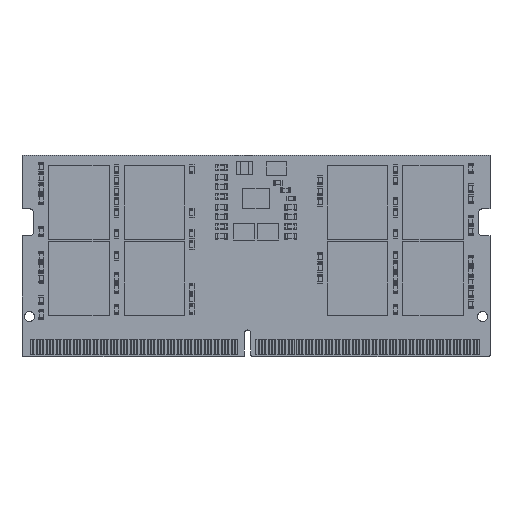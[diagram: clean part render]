
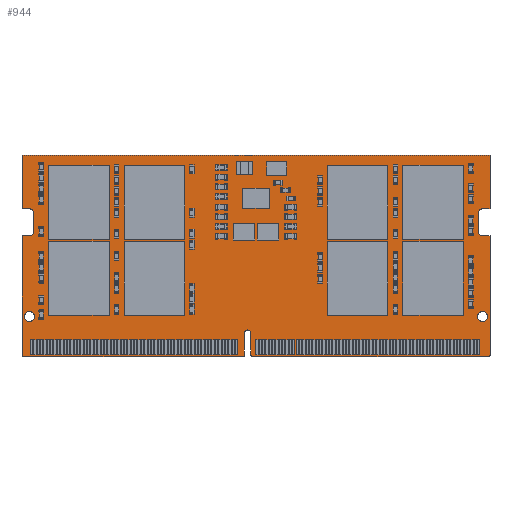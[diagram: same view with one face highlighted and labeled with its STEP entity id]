
A CAD part, top view. The second image highlights one B-rep face of the part: STEP entity #944.
In plain terms, the highlighted planar face has unit normal (0, 0, 1).
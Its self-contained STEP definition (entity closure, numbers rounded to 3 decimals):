
#227=CARTESIAN_POINT('',(1.1,6.,0.6));
#228=DIRECTION('',(0.,0.,-1.));
#229=DIRECTION('',(-1.,0.,0.));
#230=AXIS2_PLACEMENT_3D('',#227,#228,#229);
#235=CARTESIAN_POINT('',(1.1,6.,0.6));
#236=DIRECTION('',(0.,0.,-1.));
#237=DIRECTION('',(1.,0.,0.));
#238=AXIS2_PLACEMENT_3D('',#235,#236,#237);
#243=CARTESIAN_POINT('',(68.5,6.,0.6));
#244=DIRECTION('',(0.,0.,-1.));
#245=DIRECTION('',(-1.,0.,0.));
#246=AXIS2_PLACEMENT_3D('',#243,#244,#245);
#251=CARTESIAN_POINT('',(68.5,6.,0.6));
#252=DIRECTION('',(0.,0.,-1.));
#253=DIRECTION('',(1.,0.,0.));
#254=AXIS2_PLACEMENT_3D('',#251,#252,#253);
#259=DIRECTION('',(1.,0.,0.));
#260=VECTOR('',#259,1.1);
#261=CARTESIAN_POINT('',(68.5,22.,0.6));
#262=LINE('',#261,#260);
#266=DIRECTION('',(0.,1.,0.));
#267=VECTOR('',#266,2.7);
#268=CARTESIAN_POINT('',(67.85,18.65,0.6));
#269=LINE('',#268,#267);
#273=DIRECTION('',(-1.,0.,0.));
#274=VECTOR('',#273,1.1);
#275=CARTESIAN_POINT('',(69.6,18.,0.6));
#276=LINE('',#275,#274);
#280=DIRECTION('',(0.,1.,0.));
#281=VECTOR('',#280,17.75);
#282=CARTESIAN_POINT('',(69.6,0.25,0.6));
#283=LINE('',#282,#281);
#287=CARTESIAN_POINT('',(69.35,0.25,0.6));
#288=DIRECTION('',(0.,0.,1.));
#289=DIRECTION('',(0.,-1.,0.));
#290=AXIS2_PLACEMENT_3D('',#287,#288,#289);
#295=DIRECTION('',(1.,0.,0.));
#296=VECTOR('',#295,35.05);
#297=CARTESIAN_POINT('',(34.3,0.,0.6));
#298=LINE('',#297,#296);
#302=CARTESIAN_POINT('',(34.3,0.25,0.6));
#303=DIRECTION('',(0.,0.,1.));
#304=DIRECTION('',(-1.,0.,0.));
#305=AXIS2_PLACEMENT_3D('',#302,#303,#304);
#310=DIRECTION('',(0.,-1.,0.));
#311=VECTOR('',#310,3.25);
#312=CARTESIAN_POINT('',(34.05,3.5,0.6));
#313=LINE('',#312,#311);
#317=CARTESIAN_POINT('',(33.55,3.5,0.6));
#318=DIRECTION('',(0.,0.,-1.));
#319=DIRECTION('',(-1.,0.,0.));
#320=AXIS2_PLACEMENT_3D('',#317,#318,#319);
#325=DIRECTION('',(0.,1.,0.));
#326=VECTOR('',#325,3.25);
#327=CARTESIAN_POINT('',(33.05,0.25,0.6));
#328=LINE('',#327,#326);
#332=CARTESIAN_POINT('',(32.8,0.25,0.6));
#333=DIRECTION('',(0.,0.,1.));
#334=DIRECTION('',(0.,-1.,0.));
#335=AXIS2_PLACEMENT_3D('',#332,#333,#334);
#340=DIRECTION('',(1.,0.,0.));
#341=VECTOR('',#340,32.55);
#342=CARTESIAN_POINT('',(0.25,0.,0.6));
#343=LINE('',#342,#341);
#347=CARTESIAN_POINT('',(0.25,0.25,0.6));
#348=DIRECTION('',(0.,0.,1.));
#349=DIRECTION('',(-1.,0.,0.));
#350=AXIS2_PLACEMENT_3D('',#347,#348,#349);
#355=DIRECTION('',(0.,-1.,0.));
#356=VECTOR('',#355,17.75);
#357=CARTESIAN_POINT('',(0.,18.,0.6));
#358=LINE('',#357,#356);
#362=DIRECTION('',(-1.,0.,0.));
#363=VECTOR('',#362,1.1);
#364=CARTESIAN_POINT('',(1.1,18.,0.6));
#365=LINE('',#364,#363);
#369=DIRECTION('',(0.,-1.,0.));
#370=VECTOR('',#369,2.7);
#371=CARTESIAN_POINT('',(1.75,21.35,0.6));
#372=LINE('',#371,#370);
#376=DIRECTION('',(1.,0.,0.));
#377=VECTOR('',#376,1.1);
#378=CARTESIAN_POINT('',(0.,22.,0.6));
#379=LINE('',#378,#377);
#383=DIRECTION('',(0.,-1.,0.));
#384=VECTOR('',#383,8.);
#385=CARTESIAN_POINT('',(0.,30.,0.6));
#386=LINE('',#385,#384);
#390=DIRECTION('',(-1.,0.,0.));
#391=VECTOR('',#390,69.6);
#392=CARTESIAN_POINT('',(69.6,30.,0.6));
#393=LINE('',#392,#391);
#397=DIRECTION('',(0.,1.,0.));
#398=VECTOR('',#397,8.);
#399=CARTESIAN_POINT('',(69.6,22.,0.6));
#400=LINE('',#399,#398);
#433=CARTESIAN_POINT('',(68.5,21.35,0.6));
#434=DIRECTION('',(0.,0.,-1.));
#435=DIRECTION('',(-1.,0.,0.));
#436=AXIS2_PLACEMENT_3D('',#433,#434,#435);
#463=CARTESIAN_POINT('',(68.5,18.65,0.6));
#464=DIRECTION('',(0.,0.,-1.));
#465=DIRECTION('',(0.,-1.,0.));
#466=AXIS2_PLACEMENT_3D('',#463,#464,#465);
#577=CARTESIAN_POINT('',(1.1,18.65,0.6));
#578=DIRECTION('',(0.,0.,-1.));
#579=DIRECTION('',(1.,0.,0.));
#580=AXIS2_PLACEMENT_3D('',#577,#578,#579);
#607=CARTESIAN_POINT('',(1.1,21.35,0.6));
#608=DIRECTION('',(0.,0.,-1.));
#609=DIRECTION('',(0.,1.,0.));
#610=AXIS2_PLACEMENT_3D('',#607,#608,#609);
#678=CARTESIAN_POINT('',(69.6,30.,0.6));
#679=CARTESIAN_POINT('',(0.,30.,0.6));
#680=VERTEX_POINT('',#678);
#681=VERTEX_POINT('',#679);
#682=CARTESIAN_POINT('',(0.,22.,0.6));
#683=VERTEX_POINT('',#682);
#684=CARTESIAN_POINT('',(32.8,0.,0.6));
#685=CARTESIAN_POINT('',(33.05,0.25,0.6));
#686=VERTEX_POINT('',#684);
#687=VERTEX_POINT('',#685);
#688=CARTESIAN_POINT('',(33.05,3.5,0.6));
#689=VERTEX_POINT('',#688);
#690=CARTESIAN_POINT('',(34.05,3.5,0.6));
#691=VERTEX_POINT('',#690);
#692=CARTESIAN_POINT('',(34.05,0.25,0.6));
#693=VERTEX_POINT('',#692);
#694=CARTESIAN_POINT('',(34.3,0.,0.6));
#695=VERTEX_POINT('',#694);
#696=CARTESIAN_POINT('',(69.6,22.,0.6));
#697=VERTEX_POINT('',#696);
#698=CARTESIAN_POINT('',(0.35,6.,0.6));
#699=CARTESIAN_POINT('',(1.85,6.,0.6));
#700=VERTEX_POINT('',#698);
#701=VERTEX_POINT('',#699);
#702=CARTESIAN_POINT('',(67.75,6.,0.6));
#703=CARTESIAN_POINT('',(69.25,6.,0.6));
#704=VERTEX_POINT('',#702);
#705=VERTEX_POINT('',#703);
#707=CARTESIAN_POINT('',(0.,18.,0.6));
#709=VERTEX_POINT('',#707);
#711=CARTESIAN_POINT('',(69.6,18.,0.6));
#713=VERTEX_POINT('',#711);
#715=CARTESIAN_POINT('',(67.85,18.65,0.6));
#717=VERTEX_POINT('',#715);
#719=CARTESIAN_POINT('',(68.5,18.,0.6));
#721=VERTEX_POINT('',#719);
#723=CARTESIAN_POINT('',(68.5,22.,0.6));
#725=VERTEX_POINT('',#723);
#727=CARTESIAN_POINT('',(67.85,21.35,0.6));
#729=VERTEX_POINT('',#727);
#731=CARTESIAN_POINT('',(1.75,21.35,0.6));
#733=VERTEX_POINT('',#731);
#735=CARTESIAN_POINT('',(1.1,22.,0.6));
#737=VERTEX_POINT('',#735);
#739=CARTESIAN_POINT('',(1.1,18.,0.6));
#741=VERTEX_POINT('',#739);
#743=CARTESIAN_POINT('',(1.75,18.65,0.6));
#745=VERTEX_POINT('',#743);
#750=CARTESIAN_POINT('',(0.,0.25,0.6));
#751=VERTEX_POINT('',#750);
#752=CARTESIAN_POINT('',(0.25,0.,0.6));
#753=VERTEX_POINT('',#752);
#758=CARTESIAN_POINT('',(69.35,0.,0.6));
#759=VERTEX_POINT('',#758);
#760=CARTESIAN_POINT('',(69.6,0.25,0.6));
#761=VERTEX_POINT('',#760);
#879=CARTESIAN_POINT('',(0.,0.,0.6));
#880=DIRECTION('',(0.,0.,1.));
#881=DIRECTION('',(1.,0.,0.));
#882=AXIS2_PLACEMENT_3D('',#879,#880,#881);
#883=PLANE('',#882);
#885=ORIENTED_EDGE('',*,*,#884,.F.);
#887=ORIENTED_EDGE('',*,*,#886,.F.);
#889=ORIENTED_EDGE('',*,*,#888,.F.);
#891=ORIENTED_EDGE('',*,*,#890,.F.);
#893=ORIENTED_EDGE('',*,*,#892,.F.);
#895=ORIENTED_EDGE('',*,*,#894,.F.);
#897=ORIENTED_EDGE('',*,*,#896,.F.);
#899=ORIENTED_EDGE('',*,*,#898,.F.);
#901=ORIENTED_EDGE('',*,*,#900,.F.);
#903=ORIENTED_EDGE('',*,*,#902,.F.);
#905=ORIENTED_EDGE('',*,*,#904,.F.);
#907=ORIENTED_EDGE('',*,*,#906,.F.);
#909=ORIENTED_EDGE('',*,*,#908,.F.);
#911=ORIENTED_EDGE('',*,*,#910,.F.);
#913=ORIENTED_EDGE('',*,*,#912,.F.);
#915=ORIENTED_EDGE('',*,*,#914,.F.);
#917=ORIENTED_EDGE('',*,*,#916,.F.);
#919=ORIENTED_EDGE('',*,*,#918,.F.);
#921=ORIENTED_EDGE('',*,*,#920,.F.);
#923=ORIENTED_EDGE('',*,*,#922,.F.);
#925=ORIENTED_EDGE('',*,*,#924,.F.);
#927=ORIENTED_EDGE('',*,*,#926,.F.);
#929=ORIENTED_EDGE('',*,*,#928,.F.);
#931=ORIENTED_EDGE('',*,*,#930,.F.);
#932=EDGE_LOOP('',(#885,#887,#889,#891,#893,#895,#897,#899,#901,#903,#905,#907,
#909,#911,#913,#915,#917,#919,#921,#923,#925,#927,#929,#931));
#933=FACE_OUTER_BOUND('',#932,.F.);
#935=ORIENTED_EDGE('',*,*,#934,.F.);
#937=ORIENTED_EDGE('',*,*,#936,.F.);
#938=EDGE_LOOP('',(#935,#937));
#939=FACE_BOUND('',#938,.F.);
#940=ORIENTED_EDGE('',*,*,#845,.F.);
#941=ORIENTED_EDGE('',*,*,#866,.F.);
#942=EDGE_LOOP('',(#940,#941));
#943=FACE_BOUND('',#942,.F.);
#231=CIRCLE('',#230,0.75);
#239=CIRCLE('',#238,0.75);
#247=CIRCLE('',#246,0.75);
#255=CIRCLE('',#254,0.75);
#291=CIRCLE('',#290,0.25);
#306=CIRCLE('',#305,0.25);
#321=CIRCLE('',#320,0.5);
#336=CIRCLE('',#335,0.25);
#351=CIRCLE('',#350,0.25);
#437=CIRCLE('',#436,0.65);
#467=CIRCLE('',#466,0.65);
#581=CIRCLE('',#580,0.65);
#611=CIRCLE('',#610,0.65);
#845=EDGE_CURVE('',#700,#701,#231,.T.);
#866=EDGE_CURVE('',#701,#700,#239,.T.);
#884=EDGE_CURVE('',#725,#697,#262,.T.);
#886=EDGE_CURVE('',#729,#725,#437,.T.);
#888=EDGE_CURVE('',#717,#729,#269,.T.);
#890=EDGE_CURVE('',#721,#717,#467,.T.);
#892=EDGE_CURVE('',#713,#721,#276,.T.);
#894=EDGE_CURVE('',#761,#713,#283,.T.);
#896=EDGE_CURVE('',#759,#761,#291,.T.);
#898=EDGE_CURVE('',#695,#759,#298,.T.);
#900=EDGE_CURVE('',#693,#695,#306,.T.);
#902=EDGE_CURVE('',#691,#693,#313,.T.);
#904=EDGE_CURVE('',#689,#691,#321,.T.);
#906=EDGE_CURVE('',#687,#689,#328,.T.);
#908=EDGE_CURVE('',#686,#687,#336,.T.);
#910=EDGE_CURVE('',#753,#686,#343,.T.);
#912=EDGE_CURVE('',#751,#753,#351,.T.);
#914=EDGE_CURVE('',#709,#751,#358,.T.);
#916=EDGE_CURVE('',#741,#709,#365,.T.);
#918=EDGE_CURVE('',#745,#741,#581,.T.);
#920=EDGE_CURVE('',#733,#745,#372,.T.);
#922=EDGE_CURVE('',#737,#733,#611,.T.);
#924=EDGE_CURVE('',#683,#737,#379,.T.);
#926=EDGE_CURVE('',#681,#683,#386,.T.);
#928=EDGE_CURVE('',#680,#681,#393,.T.);
#930=EDGE_CURVE('',#697,#680,#400,.T.);
#934=EDGE_CURVE('',#704,#705,#247,.T.);
#936=EDGE_CURVE('',#705,#704,#255,.T.);
#944=ADVANCED_FACE('',(#933,#939,#943),#883,.T.);
